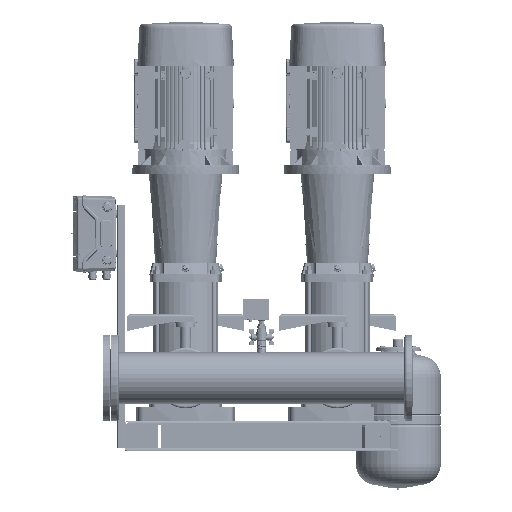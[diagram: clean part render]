
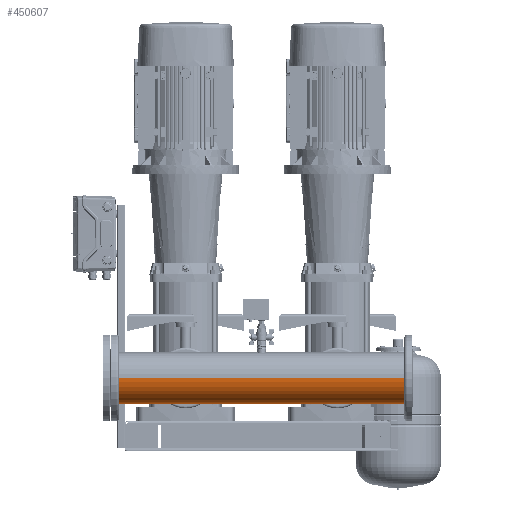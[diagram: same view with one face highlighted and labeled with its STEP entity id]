
A CAD part, front view. The second image highlights one B-rep face of the part: STEP entity #450607.
In plain terms, the highlighted cylindrical face has radius 84.15 mm (diameter 168.3 mm), a partial arc.
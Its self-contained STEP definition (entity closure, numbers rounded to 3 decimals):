
#450163=CARTESIAN_POINT('Vertex',(84.15,13.45,0.)) ;
#450170=CARTESIAN_POINT('Vertex',(84.15,-13.45,0.)) ;
#450174=CARTESIAN_POINT('Control Point',(84.15,13.45,0.)) ;
#450175=CARTESIAN_POINT('Control Point',(84.15,13.45,-2.294)) ;
#450176=CARTESIAN_POINT('Control Point',(84.072,12.961,-4.588)) ;
#450177=CARTESIAN_POINT('Control Point',(83.914,11.982,-6.738)) ;
#450178=CARTESIAN_POINT('Control Point',(83.513,9.057,-10.651)) ;
#450179=CARTESIAN_POINT('Control Point',(83.153,4.73,-12.969)) ;
#450180=CARTESIAN_POINT('Control Point',(83.036,2.218,-13.628)) ;
#450181=CARTESIAN_POINT('Control Point',(83.03,-2.819,-13.722)) ;
#450182=CARTESIAN_POINT('Control Point',(83.352,-7.382,-11.633)) ;
#450183=CARTESIAN_POINT('Control Point',(83.568,-9.344,-10.123)) ;
#450184=CARTESIAN_POINT('Control Point',(83.882,-11.727,-7.233)) ;
#450185=CARTESIAN_POINT('Control Point',(84.079,-13.004,-3.772)) ;
#450186=CARTESIAN_POINT('Control Point',(84.126,-13.301,-2.531)) ;
#450187=CARTESIAN_POINT('Control Point',(84.15,-13.45,-1.265)) ;
#450188=CARTESIAN_POINT('Control Point',(84.15,-13.45,0.)) ;
#450396=CARTESIAN_POINT('Axis2P3D Location',(0.,0.,0.)) ;
#450401=CARTESIAN_POINT('Line Origine',(84.15,0.,0.)) ;
#450405=CARTESIAN_POINT('Vertex',(84.15,205.55,0.)) ;
#450436=CARTESIAN_POINT('Vertex',(84.15,294.45,0.)) ;
#450439=CARTESIAN_POINT('Line Origine',(84.15,0.,0.)) ;
#450443=CARTESIAN_POINT('Vertex',(84.15,470.,0.)) ;
#450450=CARTESIAN_POINT('Vertex',(-84.15,470.,0.)) ;
#450453=CARTESIAN_POINT('Line Origine',(-84.15,0.,0.)) ;
#450457=CARTESIAN_POINT('Vertex',(-84.15,-470.,0.)) ;
#450464=CARTESIAN_POINT('Vertex',(84.15,-470.,0.)) ;
#450467=CARTESIAN_POINT('Line Origine',(84.15,0.,0.)) ;
#450471=CARTESIAN_POINT('Vertex',(84.15,-294.45,0.)) ;
#450502=CARTESIAN_POINT('Vertex',(84.15,-205.55,0.)) ;
#450505=CARTESIAN_POINT('Line Origine',(84.15,0.,0.)) ;
#450528=CARTESIAN_POINT('Control Point',(84.15,-205.55,0.)) ;
#450529=CARTESIAN_POINT('Control Point',(84.15,-205.55,-3.002)) ;
#450530=CARTESIAN_POINT('Control Point',(84.016,-205.803,-6.004)) ;
#450531=CARTESIAN_POINT('Control Point',(83.748,-206.31,-8.968)) ;
#450532=CARTESIAN_POINT('Control Point',(82.65,-208.419,-17.111)) ;
#450533=CARTESIAN_POINT('Control Point',(80.726,-212.326,-24.479)) ;
#450534=CARTESIAN_POINT('Control Point',(79.252,-215.497,-28.753)) ;
#450535=CARTESIAN_POINT('Control Point',(76.473,-222.162,-35.452)) ;
#450536=CARTESIAN_POINT('Control Point',(73.972,-230.372,-40.209)) ;
#450537=CARTESIAN_POINT('Control Point',(73.002,-234.259,-41.896)) ;
#450538=CARTESIAN_POINT('Control Point',(71.885,-240.535,-43.757)) ;
#450539=CARTESIAN_POINT('Control Point',(71.458,-247.08,-44.442)) ;
#450540=CARTESIAN_POINT('Control Point',(71.4,-249.36,-44.533)) ;
#450541=CARTESIAN_POINT('Control Point',(71.506,-256.235,-44.366)) ;
#450542=CARTESIAN_POINT('Control Point',(72.414,-262.951,-42.889)) ;
#450543=CARTESIAN_POINT('Control Point',(73.341,-267.228,-41.341)) ;
#450544=CARTESIAN_POINT('Control Point',(75.24,-274.026,-37.878)) ;
#450545=CARTESIAN_POINT('Control Point',(77.4,-279.873,-33.133)) ;
#450546=CARTESIAN_POINT('Control Point',(78.3,-282.109,-30.972)) ;
#450547=CARTESIAN_POINT('Control Point',(79.9,-285.835,-26.684)) ;
#450548=CARTESIAN_POINT('Control Point',(81.32,-288.853,-21.824)) ;
#450549=CARTESIAN_POINT('Control Point',(81.909,-290.063,-19.518)) ;
#450550=CARTESIAN_POINT('Control Point',(83.015,-292.28,-14.412)) ;
#450551=CARTESIAN_POINT('Control Point',(83.749,-293.691,-8.959)) ;
#450552=CARTESIAN_POINT('Control Point',(84.016,-294.197,-5.998)) ;
#450553=CARTESIAN_POINT('Control Point',(84.15,-294.45,-2.999)) ;
#450554=CARTESIAN_POINT('Control Point',(84.15,-294.45,0.)) ;
#450556=CARTESIAN_POINT('Axis2P3D Location',(0.,-470.,0.)) ;
#450561=CARTESIAN_POINT('Axis2P3D Location',(0.,470.,0.)) ;
#450567=CARTESIAN_POINT('Control Point',(84.15,294.45,0.)) ;
#450568=CARTESIAN_POINT('Control Point',(84.15,294.45,-3.002)) ;
#450569=CARTESIAN_POINT('Control Point',(84.016,294.197,-6.004)) ;
#450570=CARTESIAN_POINT('Control Point',(83.748,293.69,-8.968)) ;
#450571=CARTESIAN_POINT('Control Point',(82.65,291.581,-17.111)) ;
#450572=CARTESIAN_POINT('Control Point',(80.726,287.674,-24.479)) ;
#450573=CARTESIAN_POINT('Control Point',(79.252,284.503,-28.753)) ;
#450574=CARTESIAN_POINT('Control Point',(76.473,277.838,-35.452)) ;
#450575=CARTESIAN_POINT('Control Point',(73.972,269.628,-40.209)) ;
#450576=CARTESIAN_POINT('Control Point',(73.002,265.741,-41.896)) ;
#450577=CARTESIAN_POINT('Control Point',(71.885,259.465,-43.757)) ;
#450578=CARTESIAN_POINT('Control Point',(71.458,252.92,-44.442)) ;
#450579=CARTESIAN_POINT('Control Point',(71.4,250.64,-44.533)) ;
#450580=CARTESIAN_POINT('Control Point',(71.506,243.765,-44.366)) ;
#450581=CARTESIAN_POINT('Control Point',(72.414,237.049,-42.889)) ;
#450582=CARTESIAN_POINT('Control Point',(73.341,232.772,-41.341)) ;
#450583=CARTESIAN_POINT('Control Point',(75.24,225.974,-37.878)) ;
#450584=CARTESIAN_POINT('Control Point',(77.4,220.127,-33.133)) ;
#450585=CARTESIAN_POINT('Control Point',(78.3,217.891,-30.972)) ;
#450586=CARTESIAN_POINT('Control Point',(79.9,214.165,-26.684)) ;
#450587=CARTESIAN_POINT('Control Point',(81.32,211.147,-21.824)) ;
#450588=CARTESIAN_POINT('Control Point',(81.909,209.937,-19.518)) ;
#450589=CARTESIAN_POINT('Control Point',(83.015,207.72,-14.412)) ;
#450590=CARTESIAN_POINT('Control Point',(83.749,206.309,-8.959)) ;
#450591=CARTESIAN_POINT('Control Point',(84.016,205.803,-5.998)) ;
#450592=CARTESIAN_POINT('Control Point',(84.15,205.55,-2.999)) ;
#450593=CARTESIAN_POINT('Control Point',(84.15,205.55,0.)) ;
#450403=VECTOR('Line Direction',#450402,1.) ;
#450441=VECTOR('Line Direction',#450440,1.) ;
#450455=VECTOR('Line Direction',#450454,1.) ;
#450469=VECTOR('Line Direction',#450468,1.) ;
#450507=VECTOR('Line Direction',#450506,1.) ;
#450397=DIRECTION('Axis2P3D Direction',(0.,1.,-0.)) ;
#450398=DIRECTION('Axis2P3D XDirection',(-1.,0.,0.)) ;
#450402=DIRECTION('Vector Direction',(0.,1.,0.)) ;
#450440=DIRECTION('Vector Direction',(0.,1.,0.)) ;
#450454=DIRECTION('Vector Direction',(0.,1.,0.)) ;
#450468=DIRECTION('Vector Direction',(0.,1.,0.)) ;
#450506=DIRECTION('Vector Direction',(0.,1.,0.)) ;
#450557=DIRECTION('Axis2P3D Direction',(0.,1.,-0.)) ;
#450562=DIRECTION('Axis2P3D Direction',(0.,1.,-0.)) ;
#450399=AXIS2_PLACEMENT_3D('Cylinder Axis2P3D',#450396,#450397,#450398) ;
#450558=AXIS2_PLACEMENT_3D('Circle Axis2P3D',#450556,#450557,$) ;
#450563=AXIS2_PLACEMENT_3D('Circle Axis2P3D',#450561,#450562,$) ;
#450404=LINE('Line',#450401,#450403) ;
#450442=LINE('Line',#450439,#450441) ;
#450456=LINE('Line',#450453,#450455) ;
#450470=LINE('Line',#450467,#450469) ;
#450508=LINE('Line',#450505,#450507) ;
#450559=CIRCLE('generated circle',#450558,84.15) ;
#450564=CIRCLE('generated circle',#450563,84.15) ;
#450400=CYLINDRICAL_SURFACE('generated cylinder',#450399,84.15) ;
#450189=EDGE_CURVE('',#450164,#450171,#450173,.T.) ;
#450407=EDGE_CURVE('',#450164,#450406,#450404,.T.) ;
#450445=EDGE_CURVE('',#450437,#450444,#450442,.T.) ;
#450459=EDGE_CURVE('',#450458,#450451,#450456,.T.) ;
#450473=EDGE_CURVE('',#450465,#450472,#450470,.T.) ;
#450509=EDGE_CURVE('',#450503,#450171,#450508,.T.) ;
#450555=EDGE_CURVE('',#450503,#450472,#450527,.T.) ;
#450560=EDGE_CURVE('',#450465,#450458,#450559,.T.) ;
#450565=EDGE_CURVE('',#450444,#450451,#450564,.T.) ;
#450594=EDGE_CURVE('',#450437,#450406,#450566,.T.) ;
#450596=ORIENTED_EDGE('',*,*,#450509,.F.) ;
#450597=ORIENTED_EDGE('',*,*,#450555,.T.) ;
#450598=ORIENTED_EDGE('',*,*,#450473,.F.) ;
#450599=ORIENTED_EDGE('',*,*,#450560,.T.) ;
#450600=ORIENTED_EDGE('',*,*,#450459,.T.) ;
#450601=ORIENTED_EDGE('',*,*,#450565,.F.) ;
#450602=ORIENTED_EDGE('',*,*,#450445,.F.) ;
#450603=ORIENTED_EDGE('',*,*,#450594,.T.) ;
#450604=ORIENTED_EDGE('',*,*,#450407,.F.) ;
#450605=ORIENTED_EDGE('',*,*,#450189,.T.) ;
#450595=EDGE_LOOP('',(#450596,#450597,#450598,#450599,#450600,#450601,#450602,#450603,#450604,#450605)) ;
#450164=VERTEX_POINT('',#450163) ;
#450171=VERTEX_POINT('',#450170) ;
#450406=VERTEX_POINT('',#450405) ;
#450437=VERTEX_POINT('',#450436) ;
#450444=VERTEX_POINT('',#450443) ;
#450451=VERTEX_POINT('',#450450) ;
#450458=VERTEX_POINT('',#450457) ;
#450465=VERTEX_POINT('',#450464) ;
#450472=VERTEX_POINT('',#450471) ;
#450503=VERTEX_POINT('',#450502) ;
#450607=ADVANCED_FACE('PartBody',(#450606),#450400,.T.) ;
#450173=B_SPLINE_CURVE_WITH_KNOTS('',5,(#450174,#450175,#450176,#450177,#450178,#450179,#450180,#450181,#450182,#450183,#450184,#450185,#450186,#450187,#450188),.UNSPECIFIED.,.F.,.U.,(6,3,3,3,6),(0.,16.222,33.911,50.906,59.853),.UNSPECIFIED.) ;
#450527=B_SPLINE_CURVE_WITH_KNOTS('',5,(#450528,#450529,#450530,#450531,#450532,#450533,#450534,#450535,#450536,#450537,#450538,#450539,#450540,#450541,#450542,#450543,#450544,#450545,#450546,#450547,#450548,#450549,#450550,#450551,#450552,#450553,#450554),.UNSPECIFIED.,.F.,.U.,(6,3,3,3,3,3,3,3,6),(0.,21.226,59.746,90.173,106.258,138.671,161.447,180.249,201.454),.UNSPECIFIED.) ;
#450566=B_SPLINE_CURVE_WITH_KNOTS('',5,(#450567,#450568,#450569,#450570,#450571,#450572,#450573,#450574,#450575,#450576,#450577,#450578,#450579,#450580,#450581,#450582,#450583,#450584,#450585,#450586,#450587,#450588,#450589,#450590,#450591,#450592,#450593),.UNSPECIFIED.,.F.,.U.,(6,3,3,3,3,3,3,3,6),(0.,21.226,59.746,90.173,106.258,138.671,161.447,180.249,201.454),.UNSPECIFIED.) ;
#450606=FACE_OUTER_BOUND('',#450595,.T.) ;
